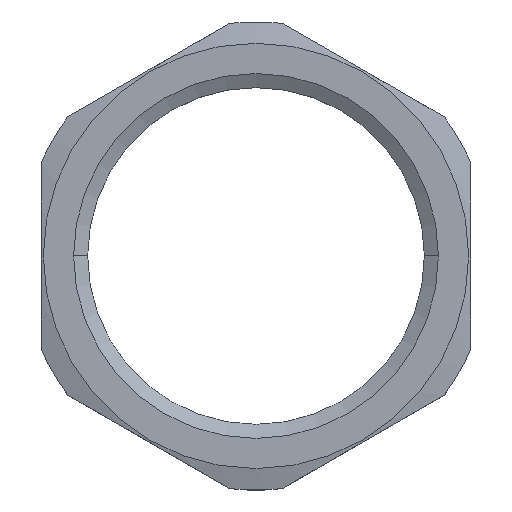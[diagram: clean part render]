
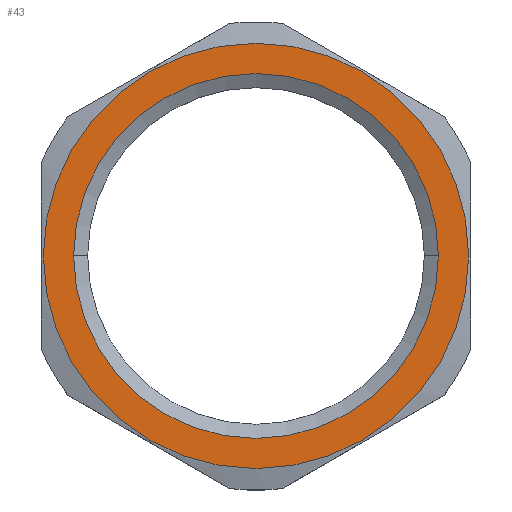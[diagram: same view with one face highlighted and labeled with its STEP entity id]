
A CAD part, top view. The second image highlights one B-rep face of the part: STEP entity #43.
In plain terms, the highlighted planar face has unit normal (0, 0, 1).
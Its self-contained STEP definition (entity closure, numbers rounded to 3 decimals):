
#19 = VERTEX_POINT ( 'NONE', #256 ) ;
#23 = EDGE_CURVE ( 'NONE', #19, #24, #249, .T. ) ;
#24 = VERTEX_POINT ( 'NONE', #245 ) ;
#41 = EDGE_CURVE ( 'NONE', #361, #301, #328, .T. ) ;
#43 = ADVANCED_FACE ( 'NONE', ( #322, #317 ), #316, .F. ) ;
#203 = EDGE_LOOP ( 'NONE', ( #207, #227 ) ) ;
#207 = ORIENTED_EDGE ( 'NONE', *, *, #208, .T. ) ;
#208 = EDGE_CURVE ( 'NONE', #301, #361, #983, .T. ) ;
#221 = ORIENTED_EDGE ( 'NONE', *, *, #222, .F. ) ;
#222 = EDGE_CURVE ( 'NONE', #24, #19, #747, .T. ) ;
#223 = ORIENTED_EDGE ( 'NONE', *, *, #23, .F. ) ;
#227 = ORIENTED_EDGE ( 'NONE', *, *, #41, .T. ) ;
#228 = EDGE_LOOP ( 'NONE', ( #221, #223 ) ) ;
#245 = CARTESIAN_POINT ( 'NONE',  ( 9.35, 0., 0. ) ) ;
#246 = DIRECTION ( 'NONE',  ( 1., 0., 0. ) ) ;
#247 = DIRECTION ( 'NONE',  ( 0., 0., 1. ) ) ;
#248 = AXIS2_PLACEMENT_3D ( 'NONE', #255, #247, #246 ) ;
#249 = CIRCLE ( 'NONE', #248, 9.35 ) ;
#255 = CARTESIAN_POINT ( 'NONE',  ( 0., 0., 0. ) ) ;
#256 = CARTESIAN_POINT ( 'NONE',  ( -9.35, 0., 0. ) ) ;
#301 = VERTEX_POINT ( 'NONE', #944 ) ;
#315 = AXIS2_PLACEMENT_3D ( 'NONE', #481, #480, #479 ) ;
#316 = PLANE ( 'NONE',  #315 ) ;
#317 = FACE_BOUND ( 'NONE', #228, .T. ) ;
#322 = FACE_OUTER_BOUND ( 'NONE', #203, .T. ) ;
#325 = DIRECTION ( 'NONE',  ( 1., 0., 0. ) ) ;
#326 = DIRECTION ( 'NONE',  ( 0., 0., 1. ) ) ;
#327 = AXIS2_PLACEMENT_3D ( 'NONE', #333, #326, #325 ) ;
#328 = CIRCLE ( 'NONE', #327, 10.9 ) ;
#333 = CARTESIAN_POINT ( 'NONE',  ( 0., 0., 0. ) ) ;
#361 = VERTEX_POINT ( 'NONE', #808 ) ;
#479 = DIRECTION ( 'NONE',  ( -1., 0., 0. ) ) ;
#480 = DIRECTION ( 'NONE',  ( 0., 0., -1. ) ) ;
#481 = CARTESIAN_POINT ( 'NONE',  ( 0., 0., 0. ) ) ;
#744 = DIRECTION ( 'NONE',  ( 1., 0., 0. ) ) ;
#745 = DIRECTION ( 'NONE',  ( 0., 0., 1. ) ) ;
#746 = AXIS2_PLACEMENT_3D ( 'NONE', #752, #745, #744 ) ;
#747 = CIRCLE ( 'NONE', #746, 9.35 ) ;
#752 = CARTESIAN_POINT ( 'NONE',  ( 0., 0., 0. ) ) ;
#808 = CARTESIAN_POINT ( 'NONE',  ( 10.9, 0., 0. ) ) ;
#944 = CARTESIAN_POINT ( 'NONE',  ( -10.9, 0., 0. ) ) ;
#979 = DIRECTION ( 'NONE',  ( 1., 0., 0. ) ) ;
#980 = DIRECTION ( 'NONE',  ( 0., 0., 1. ) ) ;
#981 = CARTESIAN_POINT ( 'NONE',  ( 0., 0., 0. ) ) ;
#982 = AXIS2_PLACEMENT_3D ( 'NONE', #981, #980, #979 ) ;
#983 = CIRCLE ( 'NONE', #982, 10.9 ) ;
